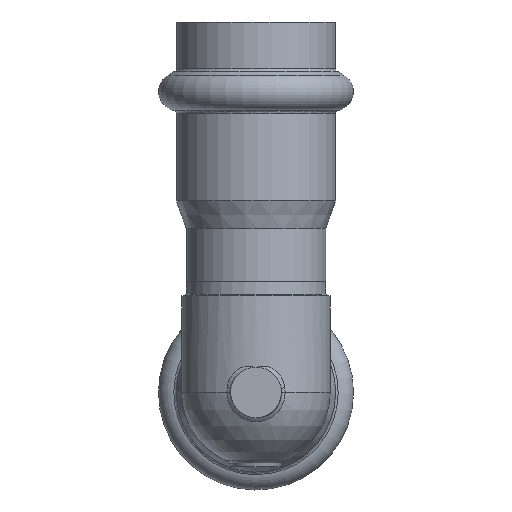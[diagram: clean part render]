
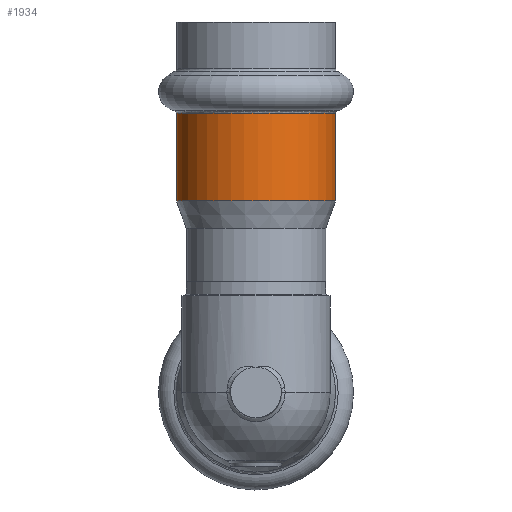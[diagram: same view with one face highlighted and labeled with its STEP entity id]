
A CAD part, front view. The second image highlights one B-rep face of the part: STEP entity #1934.
In plain terms, the highlighted cylindrical face has radius 12.575 mm (diameter 25.15 mm), a full revolution.
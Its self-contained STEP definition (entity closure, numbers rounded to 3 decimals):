
#1903=CARTESIAN_POINT('',(-26.066,12.575,0.));
#1904=VERTEX_POINT('',#1903);
#1905=CARTESIAN_POINT('',(-26.066,0.,0.0));
#1906=DIRECTION('',(-1.0,0.0,0.0));
#1907=DIRECTION('',(0.0,-1.0,0.0));
#1908=AXIS2_PLACEMENT_3D('',#1905,#1906,#1907);
#1909=CIRCLE('',#1908,12.575);
#1910=EDGE_CURVE('',#1904,#1904,#1909,.T.);
#1915=CARTESIAN_POINT('',(-19.37,0.,0.0));
#1916=DIRECTION('',(1.0,0.,0.0));
#1917=DIRECTION('',(0.0,1.0,0.0));
#1918=AXIS2_PLACEMENT_3D('',#1915,#1916,#1917);
#1919=CYLINDRICAL_SURFACE('',#1918,12.575);
#1920=CARTESIAN_POINT('',(-12.236,12.575,0.0));
#1921=VERTEX_POINT('',#1920);
#1922=CARTESIAN_POINT('',(-12.236,0.,0.0));
#1923=DIRECTION('',(1.0,0.0,0.0));
#1924=DIRECTION('',(0.0,1.0,0.0));
#1925=AXIS2_PLACEMENT_3D('',#1922,#1923,#1924);
#1926=CIRCLE('',#1925,12.575);
#1927=EDGE_CURVE('',#1921,#1921,#1926,.T.);
#1928=ORIENTED_EDGE('',*,*,#1927,.F.);
#1929=EDGE_LOOP('',(#1928));
#1930=FACE_OUTER_BOUND('',#1929,.T.);
#1931=ORIENTED_EDGE('',*,*,#1910,.F.);
#1932=EDGE_LOOP('',(#1931));
#1933=FACE_BOUND('',#1932,.T.);
#1934=ADVANCED_FACE('',(#1930,#1933),#1919,.T.);
